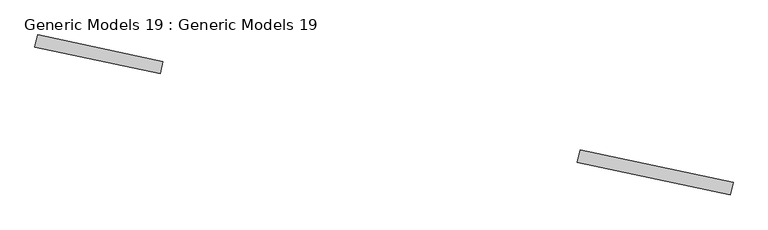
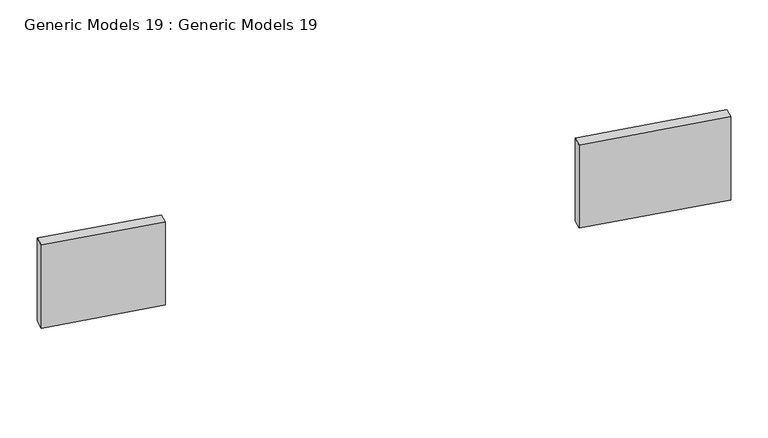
"""IFC4 building model written with IfcOpenShell, lengths in millimetres: proxy geometry, Generic Models 19 : Generic Models 19."""

from ifc_helpers import new_model, si_unit, frame, origin, place, context, project, spatial, polyline, outline, extrude, source, transform, mapped, element, save


def generic_models_19_generic_models_19_e8d40234(model_context):
    return source(origin(), model_context, "Body", "SweptSolid", [
        extrude(outline(polyline([(485635.7896154, -25131.9391242), (484559.8272546, -24903.2362643), (484578.4497513, -24815.6243058), (485654.4121121, -25044.3271657), (485635.7896154, -25131.9391242)])), frame((0.0, 0.0, 1300.0), z_axis=(0.0, 0.0, 1.0), x_axis=(1.0, 0.0, 0.0)), (0.0, 0.0, 1.0), 700.0),
        extrude(outline(polyline([(481625.3844524, -24279.5011918), (480745.0516117, -24092.3806701), (480763.6741084, -24004.7687116), (481644.0069491, -24191.8892333), (481625.3844524, -24279.5011918)])), frame((0.0, 0.0, 1300.0), z_axis=(0.0, 0.0, 1.0), x_axis=(1.0, 0.0, 0.0)), (0.0, 0.0, 1.0), 700.0),
    ])


if __name__ == "__main__":
    model = new_model("IFC4")
    model_context = context("Model", 3, world=origin())
    ifc_project = project(units=[si_unit("LENGTHUNIT", "METRE", prefix="MILLI")], contexts=[model_context])
    site = spatial("IfcSite", under=ifc_project)
    building = spatial("IfcBuilding", under=site)
    placement = place(None, origin())
    generic_models_19_generic_models_19_shape = generic_models_19_generic_models_19_e8d40234(model_context)
    element("IfcBuildingElementProxy", 1, Name="Generic Models 19 : Generic Models 19", ObjectType="Generic Models 19 : Generic Models 19", at=placement, inside=building, context=model_context, shape_type="MappedRepresentation", body=[
        mapped(generic_models_19_generic_models_19_shape, transform((0.0, 0.0, 0.0), x_axis=(1.0, 0.0, 0.0), y_axis=(0.0, 1.0, 0.0), z_axis=(0.0, 0.0, 1.0))),
    ])
    save(model, "model.ifc")
